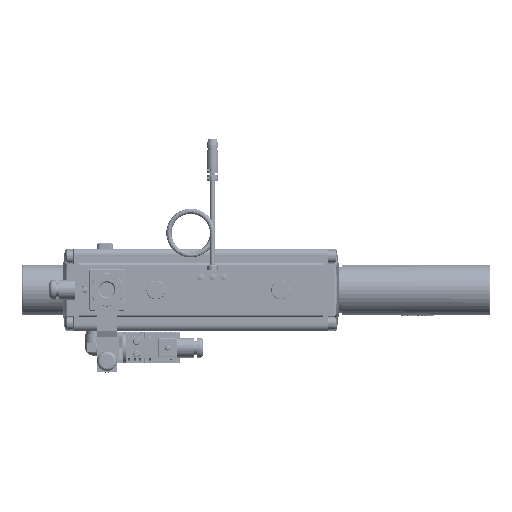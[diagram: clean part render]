
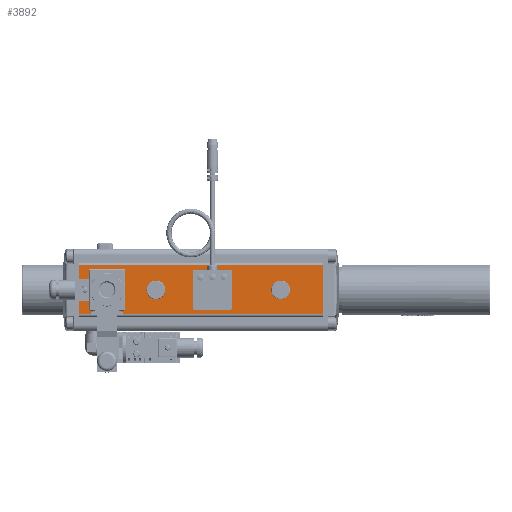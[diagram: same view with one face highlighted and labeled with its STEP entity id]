
A CAD part, top view. The second image highlights one B-rep face of the part: STEP entity #3892.
In plain terms, the highlighted planar face has unit normal (0, 0, 1).
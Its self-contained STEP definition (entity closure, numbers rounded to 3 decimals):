
#3892 = ADVANCED_FACE( '', ( #10645, #10646, #10647, #10648, #10649 ), #10650, .F. );
#10645 = FACE_OUTER_BOUND( '', #21343, .T. );
#10646 = FACE_BOUND( '', #21344, .T. );
#10647 = FACE_BOUND( '', #21345, .T. );
#10648 = FACE_BOUND( '', #21346, .T. );
#10649 = FACE_BOUND( '', #21347, .T. );
#10650 = PLANE( '', #21348 );
#21343 = EDGE_LOOP( '', ( #35856, #35857, #35858, #35859 ) );
#21344 = EDGE_LOOP( '', ( #35860 ) );
#21345 = EDGE_LOOP( '', ( #35861 ) );
#21346 = EDGE_LOOP( '', ( #35862 ) );
#21347 = EDGE_LOOP( '', ( #35863 ) );
#21348 = AXIS2_PLACEMENT_3D( '', #35864, #35865, #35866 );
#35856 = ORIENTED_EDGE( '', *, *, #62707, .T. );
#35857 = ORIENTED_EDGE( '', *, *, #62708, .T. );
#35858 = ORIENTED_EDGE( '', *, *, #61908, .F. );
#35859 = ORIENTED_EDGE( '', *, *, #61841, .F. );
#35860 = ORIENTED_EDGE( '', *, *, #62709, .T. );
#35861 = ORIENTED_EDGE( '', *, *, #62710, .F. );
#35862 = ORIENTED_EDGE( '', *, *, #62711, .F. );
#35863 = ORIENTED_EDGE( '', *, *, #62712, .F. );
#35864 = CARTESIAN_POINT( '', ( 169.5, -19., 35.875 ) );
#35865 = DIRECTION( '', ( 0., 0., -1. ) );
#35866 = DIRECTION( '', ( 0., -1., 0. ) );
#61841 = EDGE_CURVE( '', #73221, #73223, #73224, .T. );
#61908 = EDGE_CURVE( '', #73223, #73337, #73338, .T. );
#62707 = EDGE_CURVE( '', #73221, #74763, #74764, .T. );
#62708 = EDGE_CURVE( '', #74763, #73337, #74765, .T. );
#62709 = EDGE_CURVE( '', #74766, #74766, #74767, .T. );
#62710 = EDGE_CURVE( '', #74768, #74768, #74769, .T. );
#62711 = EDGE_CURVE( '', #74770, #74770, #74771, .T. );
#62712 = EDGE_CURVE( '', #74772, #74772, #74773, .T. );
#73221 = VERTEX_POINT( '', #90057 );
#73223 = VERTEX_POINT( '', #90059 );
#73224 = LINE( '', #90060, #90061 );
#73337 = VERTEX_POINT( '', #90243 );
#73338 = LINE( '', #90244, #90245 );
#74763 = VERTEX_POINT( '', #92971 );
#74764 = LINE( '', #92972, #92973 );
#74765 = LINE( '', #92974, #92975 );
#74766 = VERTEX_POINT( '', #92976 );
#74767 = ELLIPSE( '', #92977, 4.864, 4.864 );
#74768 = VERTEX_POINT( '', #92978 );
#74769 = CIRCLE( '', #92979, 7.3 );
#74770 = VERTEX_POINT( '', #92980 );
#74771 = CIRCLE( '', #92981, 7.3 );
#74772 = VERTEX_POINT( '', #92982 );
#74773 = CIRCLE( '', #92983, 5.723 );
#90057 = CARTESIAN_POINT( '', ( 169.5, 19., 35.875 ) );
#90059 = CARTESIAN_POINT( '', ( 169.5, -19., 35.875 ) );
#90060 = CARTESIAN_POINT( '', ( 169.5, -27., 35.875 ) );
#90061 = VECTOR( '', #114216, 1000. );
#90243 = CARTESIAN_POINT( '', ( -20.5, -19., 35.875 ) );
#90244 = CARTESIAN_POINT( '', ( 169.5, -19., 35.875 ) );
#90245 = VECTOR( '', #114300, 1000. );
#92971 = CARTESIAN_POINT( '', ( -20.5, 19., 35.875 ) );
#92972 = CARTESIAN_POINT( '', ( 169.5, 19., 35.875 ) );
#92973 = VECTOR( '', #115245, 1000. );
#92974 = CARTESIAN_POINT( '', ( -20.5, -19., 35.875 ) );
#92975 = VECTOR( '', #115246, 1000. );
#92976 = CARTESIAN_POINT( '', ( 83.5, 5.087, 35.875 ) );
#92977 = AXIS2_PLACEMENT_3D( '', #115247, #115248, #115249 );
#92978 = CARTESIAN_POINT( '', ( 136.5, 7.3, 35.875 ) );
#92979 = AXIS2_PLACEMENT_3D( '', #115250, #115251, #115252 );
#92980 = CARTESIAN_POINT( '', ( 39.5, 7.3, 35.875 ) );
#92981 = AXIS2_PLACEMENT_3D( '', #115253, #115254, #115255 );
#92982 = CARTESIAN_POINT( '', ( 1.5, 5.723, 35.875 ) );
#92983 = AXIS2_PLACEMENT_3D( '', #115256, #115257, #115258 );
#114216 = DIRECTION( '', ( 0., -1., 0. ) );
#114300 = DIRECTION( '', ( -1., 0., 0. ) );
#115245 = DIRECTION( '', ( -1., 0., 0. ) );
#115246 = DIRECTION( '', ( 0., -1., 0. ) );
#115247 = CARTESIAN_POINT( '', ( 83.5, 0.223, 35.875 ) );
#115248 = DIRECTION( '', ( 0., 0., -1. ) );
#115249 = DIRECTION( '', ( 0., 1., 0. ) );
#115250 = CARTESIAN_POINT( '', ( 136.5, 0., 35.875 ) );
#115251 = DIRECTION( '', ( 0., 0., 1. ) );
#115252 = DIRECTION( '', ( 0., 1., 0. ) );
#115253 = CARTESIAN_POINT( '', ( 39.5, 0., 35.875 ) );
#115254 = DIRECTION( '', ( 0., 0., 1. ) );
#115255 = DIRECTION( '', ( 0., 1., 0. ) );
#115256 = CARTESIAN_POINT( '', ( 1.5, 0., 35.875 ) );
#115257 = DIRECTION( '', ( 0., 0., 1. ) );
#115258 = DIRECTION( '', ( 0., 1., 0. ) );
